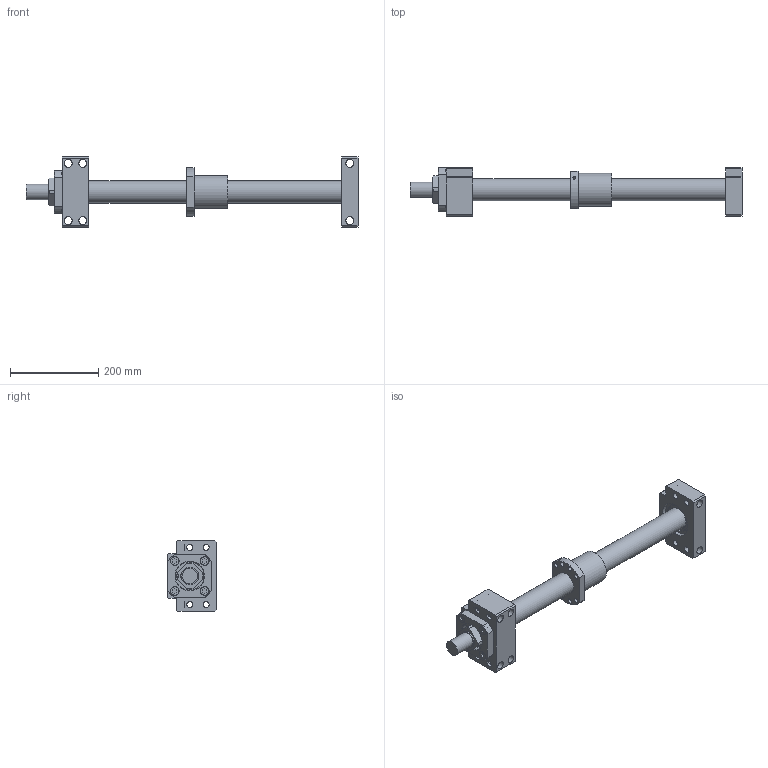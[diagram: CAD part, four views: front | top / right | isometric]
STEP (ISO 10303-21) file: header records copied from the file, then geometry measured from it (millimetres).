
FILE_DESCRIPTION(/* description */ ('','CAx-IF Rec.Pracs.---Representation and Presentation of Product Manufacturing Information (PMI)---4.0---2014-10-13'),/* implementation_level */ '2;1');
FILE_NAME(/* name */ 'F2RFU-5010-0750-BK40-BF40ASM v1.step',/* time_stamp */ '2024-12-17T10:44:44-05:00',/* author */ (''),/* organization */ (''),/* preprocessor_version */ 'ST-DEVELOPER v20',/* originating_system */ 'Autodesk Translation Framework v13.20.0.188',/* authorisation */ '');
FILE_SCHEMA (('AP242_MANAGED_MODEL_BASED_3D_ENGINEERING_MIM_LF { 1 0 10303 442 1 1 4 }'));
Length unit declared in the file: millimetre
Products named in the file (12): F2RFU-5010-0750-BK40-BF40ASM; 50xx_750; Screw50; BF40EndMach; BK40EndMach; BK40Yes; BK 40; BK 40collar; BF40; BF 40 Part1; BF 40 Part2; 50 x 10 Ball Nut
Assembly tree (11 placements, depth 3):
  F2RFU-5010-0750-BK40-BF40ASM
    50xx_750
      Screw50
      BF40EndMach
      BK40EndMach
    BK40Yes
      BK 40
      BK 40collar
    BF40
      BF 40 Part1
      BF 40 Part2
    50 x 10 Ball Nut
Bounding box: 754.5 x 110 x 160 mm (x, y, z)
Volume: 2974761.5 mm3; surface area: 399658.2 mm2
Topology: 8 solids, 9 shells, 245 faces, 639 edges, 433 vertices
Faces by surface type: plane 133, cylinder 88, cone 19, torus 5
Full cylindrical faces by diameter (mm): 6.8 x1, 8 x2, 11 x8, 14 x20, 18 x6, 19 x4, 20 x4, 26 x6, 35 x1, 38 x1, 38.376 x1, 39.85 x1, 40 x5, 46 x1, 48 x1, 49.4 x2, 50 x1, 50.2 x1, 52.8 x2, 61.7 x2, 65 x2, 65.1 x1, 67.2 x2, 75 x1, 80 x2
Entity records: 9069 total; most frequent: CARTESIAN_POINT 2555, ORIENTED_EDGE 1278, DIRECTION 1265, EDGE_CURVE 639, AXIS2_PLACEMENT_3D 468, VERTEX_POINT 433, EDGE_LOOP 346, LINE 329
